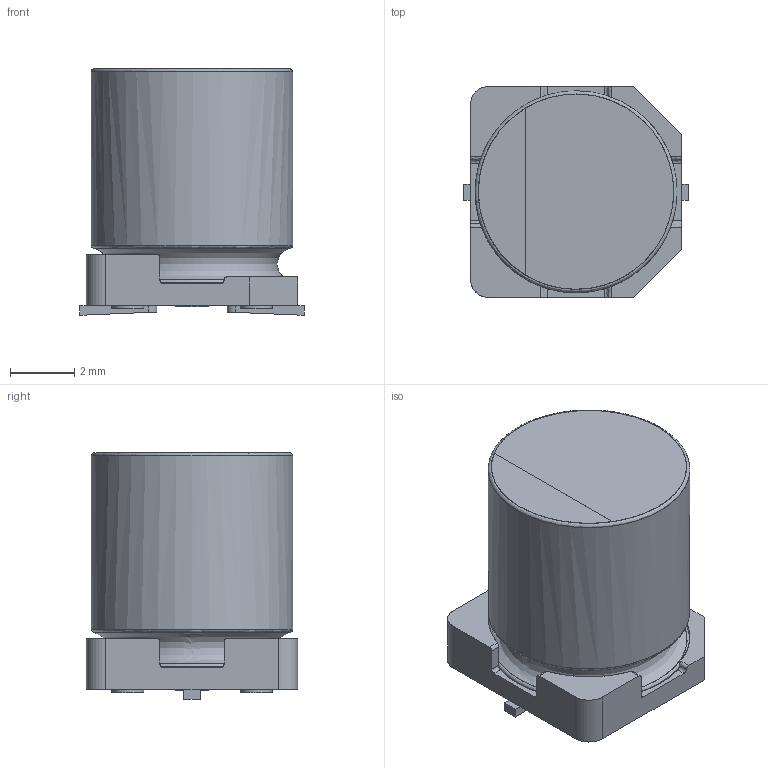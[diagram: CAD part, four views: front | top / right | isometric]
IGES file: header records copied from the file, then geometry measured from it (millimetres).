
Start section: JAMA-IS VERSION  1.0
Bounding box: 7 x 6.6 x 7.7 mm (x, y, z)
Surface area: 337 mm2 (no closed solid volume)
Topology: 0 solids, 0 shells, 74 faces, 994 edges, 976 vertices
Faces by surface type: bspline 74
